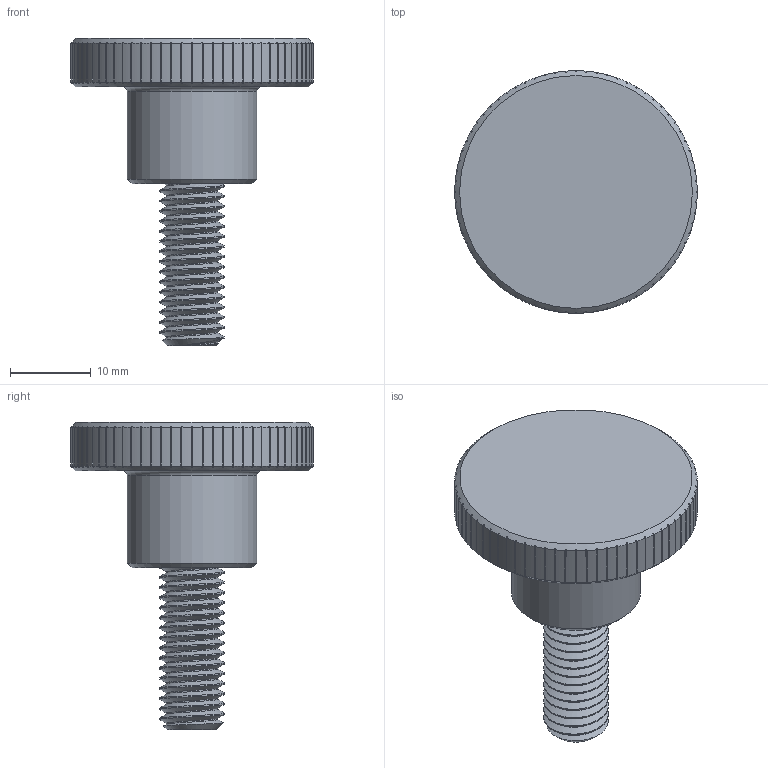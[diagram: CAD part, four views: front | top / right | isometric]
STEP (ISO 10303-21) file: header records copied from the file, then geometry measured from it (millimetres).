
FILE_DESCRIPTION((''),'2;1');
FILE_NAME('C:\Andys Backup Data\WEBSITE\DREAMWEAVER\MiniTec\Products\Screw_And_Nuts\Catalog_Pages\Thumb_Screws_Hand_Knobs\CAD\STEP\21.9978_20 M8X20 KNURLED THUMB SCREW.stp','2014-07-08T10:44:18',('Admin'),(''),'Autodesk Inventor 2012','Autodesk Inventor 2012','');
FILE_SCHEMA(('AUTOMOTIVE_DESIGN { 1 0 10303 214 1 1 1 1 }'));
Length unit declared in the file: millimetre
Products named in the file (1): 21.9978_20 M8X20 KNURLED THUMB SCREW
Bounding box: 30 x 30 x 38 mm (x, y, z)
Volume: 7424.3 mm3; surface area: 3347.7 mm2
Topology: 1 solids, 1 shells, 302 faces, 956 edges, 658 vertices
Faces by surface type: plane 148, cylinder 147, cone 4, bspline 2, torus 1
Full cylindrical faces by diameter (mm): 16 x1
Entity records: 12714 total; most frequent: CARTESIAN_POINT 4103, ORIENTED_EDGE 1900, DIRECTION 1784, EDGE_CURVE 950, VERTEX_POINT 658, AXIS2_PLACEMENT_3D 604, VECTOR 576, LINE 576
